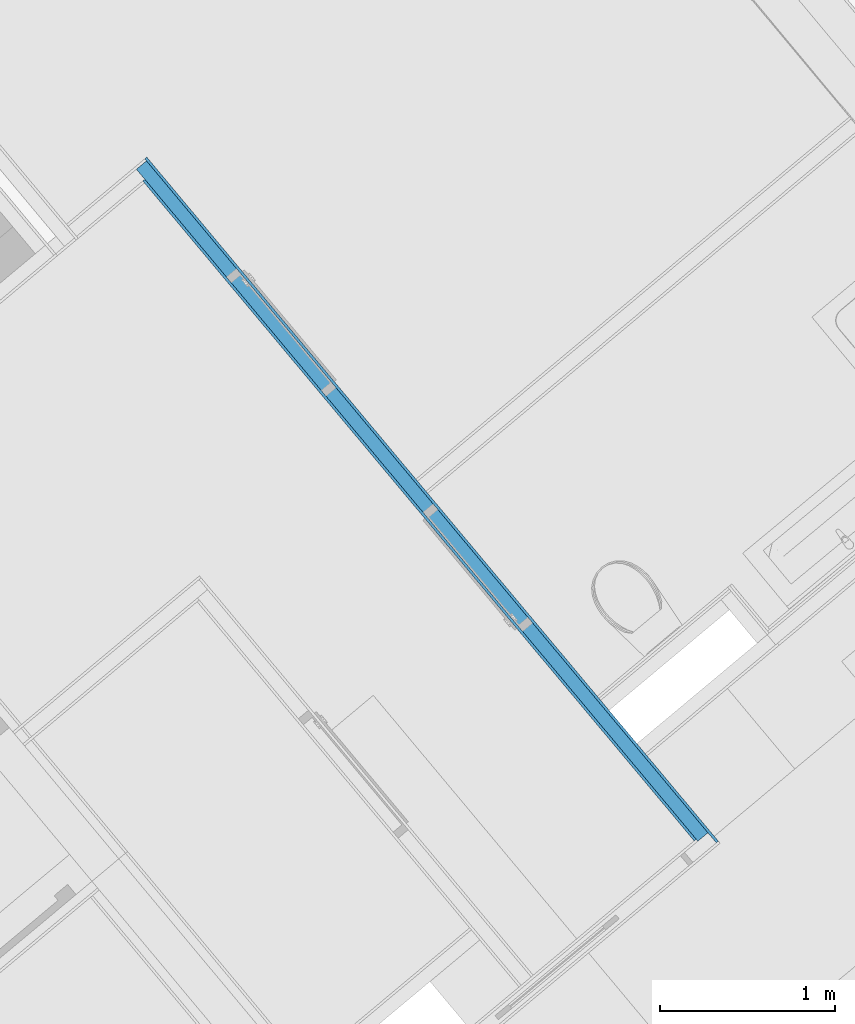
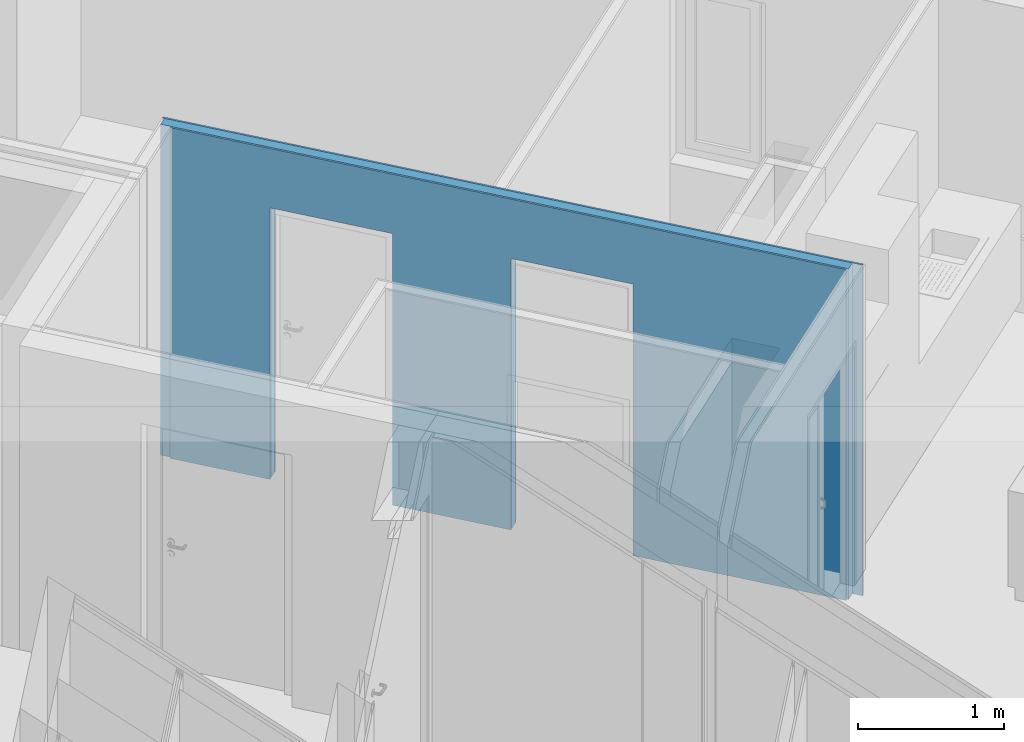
# One storey, part 14 of 67: 3 building element parts, 2 openings, 1 element without a shape of its own.
"""IFC4 building model written with IfcOpenShell, lengths in metres."""

from ifc_helpers import new_model, entity, si_unit, converted_unit, derived_unit, direction, frame, origin_with_axes, place, context, subcontext, project, spatial, polygons, material, type_object, element, aggregate, save


model = new_model("IFC4")

# Units and contexts
model_context = context("Model", 3, precision=1e-05, world=origin_with_axes(), true_north=direction((0.0, 1.0)))
body_context = subcontext(model_context, "Body", "Model", "MODEL_VIEW")
ifc_project = project(units=[si_unit("LENGTHUNIT", "METRE"), si_unit("AREAUNIT", "SQUARE_METRE"), si_unit("VOLUMEUNIT", "CUBIC_METRE"), converted_unit("PLANEANGLEUNIT", "DEGREE", entity("IfcPlaneAngleMeasure", 0.0174532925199), si_unit("PLANEANGLEUNIT", "RADIAN"), dimensions=[0, 0, 0, 0, 0, 0, 0]), converted_unit("TIMEUNIT", "Year", entity("IfcTimeMeasure", 31556926.0), si_unit("TIMEUNIT", "SECOND"), dimensions=[0, 0, 1, 0, 0, 0, 0]), si_unit("MASSUNIT", "GRAM", prefix="KILO"), si_unit("THERMODYNAMICTEMPERATUREUNIT", "DEGREE_CELSIUS"), si_unit("LUMINOUSINTENSITYUNIT", "LUMEN"), si_unit("ENERGYUNIT", "JOULE", prefix="MEGA"), derived_unit("THERMALCONDUCTANCEUNIT", [(si_unit("POWERUNIT", "WATT"), 1), (si_unit("LENGTHUNIT", "METRE"), -1), (si_unit("THERMODYNAMICTEMPERATUREUNIT", "KELVIN"), -1)]), derived_unit("SPECIFICHEATCAPACITYUNIT", [(si_unit("ENERGYUNIT", "JOULE"), 1), (si_unit("MASSUNIT", "GRAM", prefix="KILO"), -1), (si_unit("THERMODYNAMICTEMPERATUREUNIT", "KELVIN"), -1)]), derived_unit("MASSDENSITYUNIT", [(si_unit("MASSUNIT", "GRAM", prefix="KILO"), 1), (si_unit("VOLUMEUNIT", "CUBIC_METRE"), -1)])], contexts=[model_context])

# Site, building, storey
site_placement = place(None, frame((-0.00153261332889, -0.00661245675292, 0.0), z_axis=(0.0, 0.0, 1.0), x_axis=(1.0, 0.0, 0.0)))
site = spatial("IfcSite", under=ifc_project, at=site_placement, Name="Site", CompositionType="ELEMENT")
building_placement = place(site_placement, origin_with_axes())
building = spatial("IfcBuilding", under=site, at=building_placement, Name="Building", CompositionType="ELEMENT")
storey_placement = place(building_placement, frame((0.0, 0.0, -0.22), z_axis=(0.0, 0.0, 1.0), x_axis=(1.0, 0.0, 0.0)))
storey = spatial("IfcBuildingStorey", under=building, at=storey_placement, Name="EG", CompositionType="ELEMENT", Elevation=-0.22)

# Wall, openings, building element parts
wall_type = type_object("IfcWallType", Name="IW LB 01 Leichtbautrennwand einfach 10,5 cm 105", PredefinedType="NOTDEFINED")
wall_placement = place(storey_placement, frame((6.82661068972, 22.4478297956, 0.0), z_axis=(0.0, 0.0, 1.0), x_axis=(-0.641209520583, 0.767365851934, 0.0)))
wall = element("IfcWall", 1, at=wall_placement, inside=storey, type_object=wall_type, Name="Wand-012", PredefinedType="NOTDEFINED")
opening_1_placement = place(wall_placement, frame((2.09706783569, 0.0, 0.22), z_axis=(0.0, 0.0, 1.0), x_axis=(1.0, 0.0, 0.0)))
element("IfcOpeningElement", 2, at=opening_1_placement, cuts=wall, Name="Tür-014", context=body_context, identifier="Reference", shape_type="Tessellation", body=[
    polygons([(-0.445, -2.51639218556, 2.045), (-0.445, -2.51639218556, -0.22), (0.445, -2.51639218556, -0.22), (0.445, -2.51639218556, 2.045), (-0.445, 2.62139218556, 2.045), (-0.445, 2.62139218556, -0.22), (0.445, 2.62139218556, -0.22), (0.445, 2.62139218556, 2.045)], [[[1, 2, 3, 4]], [[5, 6, 2, 1]], [[6, 7, 3, 2]], [[7, 8, 4, 3]], [[8, 5, 1, 4]], [[7, 6, 5, 8]]], closed=True),
])
opening_2_placement = place(wall_placement, frame((3.85013716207, 0.0, 0.22), z_axis=(0.0, 0.0, 1.0), x_axis=(1.0, 0.0, 0.0)))
element("IfcOpeningElement", 3, at=opening_2_placement, cuts=wall, Name="Tür-016", context=body_context, identifier="Reference", shape_type="Tessellation", body=[
    polygons([(0.445, 2.62139218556, 2.045), (0.445, 2.62139218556, -0.22), (-0.445, 2.62139218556, -0.22), (-0.445, 2.62139218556, 2.045), (0.445, -2.51639218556, 2.045), (0.445, -2.51639218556, -0.22), (-0.445, -2.51639218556, -0.22), (-0.445, -2.51639218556, 2.045)], [[[1, 2, 3, 4]], [[5, 6, 2, 1]], [[6, 7, 3, 2]], [[7, 8, 4, 3]], [[8, 5, 1, 4]], [[7, 6, 5, 8]]], closed=True),
])
ifc_material_1 = material(Name="Gipskarton")
building_element_part_1_placement = place(wall_placement, origin_with_axes())
building_element_part_1 = element("IfcBuildingElementPart", 4, at=building_element_part_1_placement, material=ifc_material_1, Name="Gipskarton", PredefinedType="NOTDEFINED", context=body_context, shape_type="Tessellation", body=[
    polygons([(4.29513716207, 0.09, 2.265), (4.29513716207, 0.09, 0.22), (4.29513712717, 0.09, 0.0), (5.02214632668, 0.09, 0.0), (5.02214632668, 0.09, 2.76), (0.105056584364, 0.09, 2.76), (0.105056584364, 0.09, 0.0), (1.6520678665, 0.09, 0.0), (1.65206783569, 0.09, 0.22), (1.65206783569, 0.09, 2.265), (2.54206783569, 0.09, 2.265), (2.54206783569, 0.09, 0.22), (2.54206783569, 0.09, 0.0), (3.40513716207, 0.09, 0.0), (3.40513716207, 0.09, 0.22), (3.40513716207, 0.09, 2.265), (4.29513716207, 0.105, 2.265), (4.29513716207, 0.105, 0.22), (4.29513712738, 0.105, 0.0), (5.02214632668, 0.105, 0.0), (5.02214632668, 0.105, 2.76), (0.105066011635, 0.105, 2.76), (0.105066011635, 0.105, 0.0), (1.65206786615, 0.105, 0.0), (1.65206783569, 0.105, 0.22), (1.65206783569, 0.105, 2.265), (2.54206783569, 0.105, 2.265), (2.54206783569, 0.105, 0.22), (2.54206783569, 0.105, 0.0), (3.40513716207, 0.105, 0.0), (3.40513716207, 0.105, 0.22), (3.40513716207, 0.105, 2.265)], [[[1, 2, 3, 4, 5, 6, 7, 8, 9, 10, 11, 12, 13, 14, 15, 16]], [[2, 1, 17, 18]], [[2, 18, 19, 3]], [[20, 4, 3, 19]], [[4, 20, 21, 5]], [[5, 21, 22, 6]], [[23, 7, 6, 22]], [[7, 23, 24, 8]], [[9, 8, 24, 25]], [[9, 25, 26, 10]], [[10, 26, 27, 11]], [[11, 27, 28, 12]], [[28, 29, 13, 12]], [[13, 29, 30, 14]], [[31, 15, 14, 30]], [[16, 15, 31, 32]], [[1, 16, 32, 17]], [[32, 31, 30, 29, 28, 27, 26, 25, 24, 23, 22, 21, 20, 19, 18, 17]]], closed=True),
])
ifc_material_2 = material(Name="Mineralwolle weich")
building_element_part_2_placement = place(wall_placement, origin_with_axes())
building_element_part_2 = element("IfcBuildingElementPart", 5, at=building_element_part_2_placement, material=ifc_material_2, Name="Mineralwolle weich", PredefinedType="NOTDEFINED", context=body_context, shape_type="Tessellation", body=[
    polygons([(4.29513716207, 0.015, 2.265), (4.29513716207, 0.015, 0.22), (4.29513712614, 0.015, 0.0), (5.09714632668, 0.015, 0.0), (5.09714632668, 0.015, 2.76), (0.0900094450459, 0.015, 2.76), (0.0900094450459, 0.015, 0.0), (1.65206786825, 0.015, 0.0), (1.65206783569, 0.015, 0.22), (1.65206783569, 0.015, 2.265), (2.54206783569, 0.015, 2.265), (2.54206783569, 0.015, 0.22), (2.54206783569, 0.015, 0.0), (3.40513716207, 0.015, 0.0), (3.40513716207, 0.015, 0.22), (3.40513716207, 0.015, 2.265), (4.29513716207, 0.09, 2.265), (4.29513716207, 0.09, 0.22), (4.29513712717, 0.09, 0.0), (5.09714632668, 0.09, 0.0), (5.09714632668, 0.09, 2.76), (0.0900565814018, 0.09, 2.76), (0.0900565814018, 0.09, 0.0), (1.6520678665, 0.09, 0.0), (1.65206783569, 0.09, 0.22), (1.65206783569, 0.09, 2.265), (2.54206783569, 0.09, 2.265), (2.54206783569, 0.09, 0.22), (2.54206783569, 0.09, 0.0), (3.40513716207, 0.09, 0.0), (3.40513716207, 0.09, 0.22), (3.40513716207, 0.09, 2.265)], [[[1, 2, 3, 4, 5, 6, 7, 8, 9, 10, 11, 12, 13, 14, 15, 16]], [[2, 1, 17, 18]], [[2, 18, 19, 3]], [[20, 4, 3, 19]], [[4, 20, 21, 5]], [[5, 21, 22, 6]], [[23, 7, 6, 22]], [[7, 23, 24, 8]], [[9, 8, 24, 25]], [[9, 25, 26, 10]], [[10, 26, 27, 11]], [[11, 27, 28, 12]], [[28, 29, 13, 12]], [[13, 29, 30, 14]], [[31, 15, 14, 30]], [[16, 15, 31, 32]], [[1, 16, 32, 17]], [[32, 31, 30, 29, 28, 27, 26, 25, 24, 23, 22, 21, 20, 19, 18, 17]]], closed=True),
])
building_element_part_3_placement = place(wall_placement, origin_with_axes())
building_element_part_3 = element("IfcBuildingElementPart", 6, at=building_element_part_3_placement, material=ifc_material_1, Name="Gipskarton", PredefinedType="NOTDEFINED", context=body_context, shape_type="Tessellation", body=[
    polygons([(4.29513716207, 1.80854442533e-10, 2.265), (4.29513716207, -6.83303724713e-09, 0.22), (4.29513712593, -6.83304079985e-09, 0.0), (5.11214632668, 0.0, 0.0), (5.11214632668, 0.0, 2.76), (0.98984140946, 0.0, 2.76), (0.741612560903, 0.0, 2.76), (0.0150000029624, 0.0, 2.76), (0.0150000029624, 0.0, 0.0), (1.6520678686, 6.71234090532e-09, 0.0), (1.65206783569, 6.71234090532e-09, 0.22), (1.65206783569, 1.80857995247e-10, 2.265), (2.54206783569, 1.80857995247e-10, 2.265), (2.54206783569, -3.01550784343e-10, 0.22), (2.54206783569, -3.01550784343e-10, 0.0), (3.40513716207, 1.80857995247e-10, 0.0), (3.40513716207, 1.80857995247e-10, 0.22), (3.40513716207, 1.80854442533e-10, 2.265), (4.29513716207, 0.015, 2.265), (4.29513716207, 0.015, 0.22), (4.29513712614, 0.015, 0.0), (5.11214632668, 0.015, 0.0), (5.11214632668, 0.015, 2.76), (0.0150094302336, 0.015, 2.76), (0.0150094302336, 0.015, 0.0), (1.65206786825, 0.015, 0.0), (1.65206783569, 0.015, 0.22), (1.65206783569, 0.015, 2.265), (2.54206783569, 0.015, 2.265), (2.54206783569, 0.015, 0.22), (2.54206783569, 0.015, 0.0), (3.40513716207, 0.015, 0.0), (3.40513716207, 0.015, 0.22), (3.40513716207, 0.015, 2.265)], [[[1, 2, 3, 4, 5, 6, 7, 8, 9, 10, 11, 12, 13, 14, 15, 16, 17, 18]], [[2, 1, 19, 20]], [[2, 20, 21, 3]], [[22, 4, 3, 21]], [[4, 22, 23, 5]], [[23, 24, 8, 7, 6, 5]], [[25, 9, 8, 24]], [[9, 25, 26, 10]], [[11, 10, 26, 27]], [[11, 27, 28, 12]], [[12, 28, 29, 13]], [[13, 29, 30, 14]], [[30, 31, 15, 14]], [[15, 31, 32, 16]], [[33, 17, 16, 32]], [[18, 17, 33, 34]], [[1, 18, 34, 19]], [[34, 33, 32, 31, 30, 29, 28, 27, 26, 25, 24, 23, 22, 21, 20, 19]]], closed=True),
])
aggregate(wall, [building_element_part_1, building_element_part_2, building_element_part_3])

save(model, "model.ifc")
